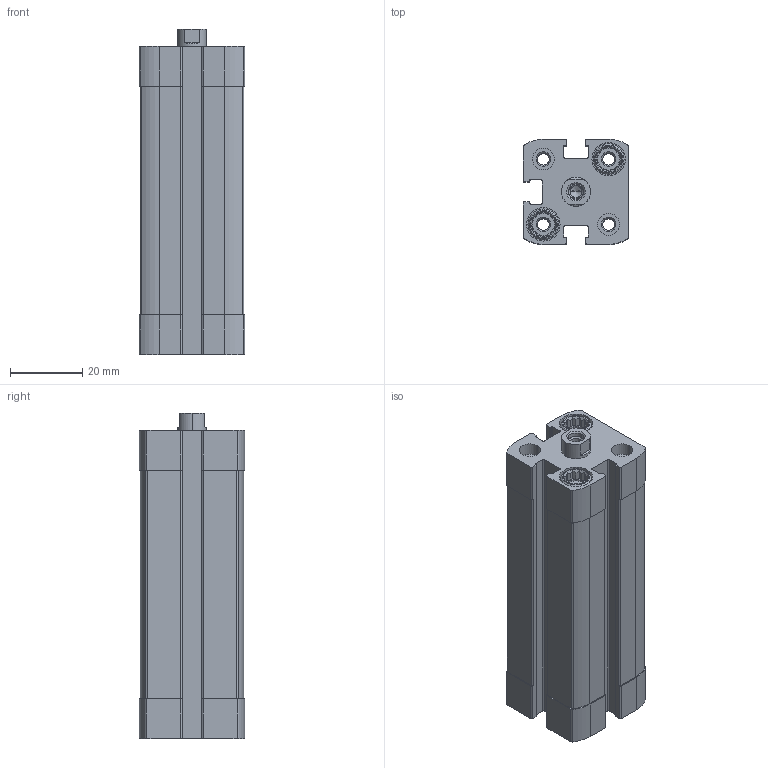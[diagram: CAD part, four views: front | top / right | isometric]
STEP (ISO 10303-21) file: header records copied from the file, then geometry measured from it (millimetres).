
FILE_DESCRIPTION (( 'STEP AP203' ), '1' );
FILE_NAME ('CCN16-50F.STEP', '2017-03-28T13:40:36', ( '' ), ( '' ), 'SwSTEP 2.0', 'SolidWorks 2016', '' );
FILE_SCHEMA (( 'CONFIG_CONTROL_DESIGN' ));
Length unit declared in the file: millimetre
Products named in the file (3): CCN-50---(Z); CCN-50_(KS); CCN16-50F
Assembly tree (2 placements, depth 2):
  CCN16-50F
    CCN-50---(Z)
    CCN-50_(KS)
Bounding box: 29 x 29 x 89.7 mm (x, y, z)
Volume: 48198.3 mm3; surface area: 25433 mm2
Topology: 2 solids, 2 shells, 363 faces, 936 edges, 611 vertices
Faces by surface type: plane 187, cylinder 134, cone 42
Entity records: 11481 total; most frequent: CARTESIAN_POINT 2207, DIRECTION 1888, ORIENTED_EDGE 1868, EDGE_CURVE 934, AXIS2_PLACEMENT_3D 684, VERTEX_POINT 611, VECTOR 520, LINE 520
